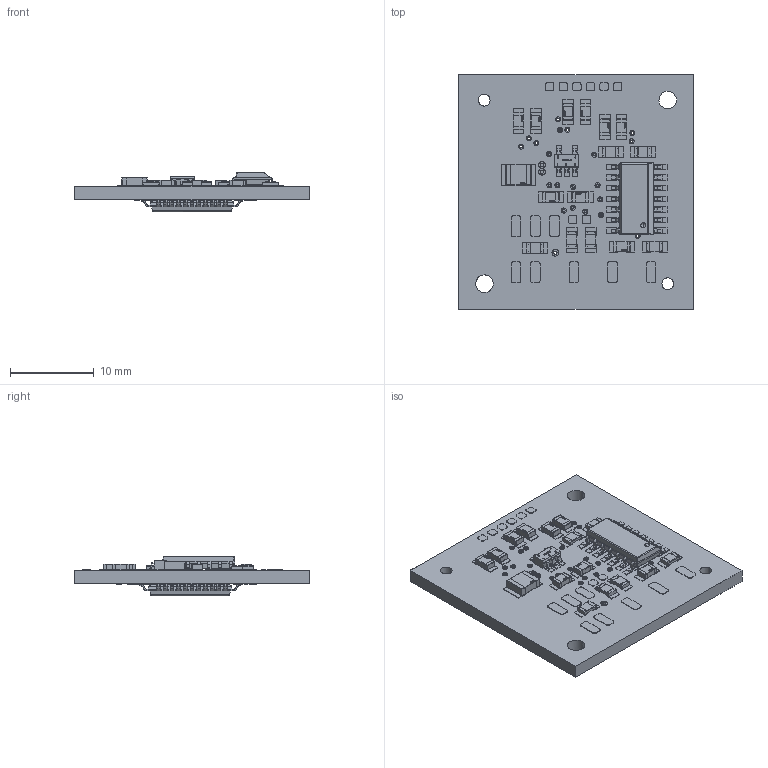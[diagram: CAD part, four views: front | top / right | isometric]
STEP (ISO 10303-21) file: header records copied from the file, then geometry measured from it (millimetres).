
FILE_DESCRIPTION (( 'STEP AP203' ), '1' );
FILE_NAME ('MODM247-3D.STEP', '2019-03-06T10:21:12', ( '' ), ( '' ), 'SwSTEP 2.0', 'SolidWorks 2016', '' );
FILE_SCHEMA (( 'CONFIG_CONTROL_DESIGN' ));
Products named in the file (1): MODM247-3D
Bounding box: 28 x 28 x 4.75 mm (x, y, z)
Volume: 1459.7 mm3; surface area: 2789.8 mm2
Topology: 213 solids, 213 shells, 3581 faces, 8534 edges, 5398 vertices
Faces by surface type: plane 2108, bspline 987, cylinder 486
Entity records: 157912 total; most frequent: CARTESIAN_POINT 83173, ORIENTED_EDGE 16908, DIRECTION 11911, EDGE_CURVE 8454, VERTEX_POINT 5398, VECTOR 5331, LINE 5331, EDGE_LOOP 3838
